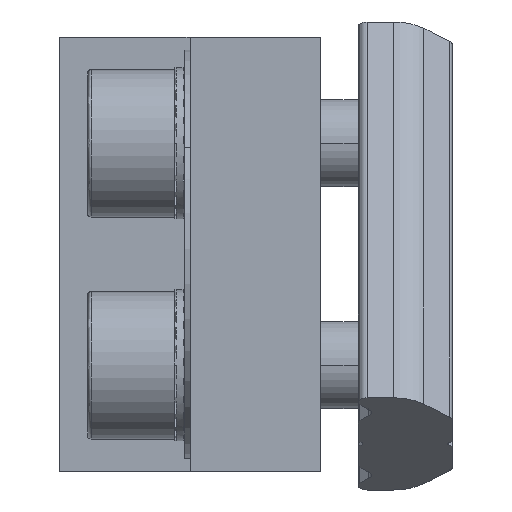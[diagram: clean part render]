
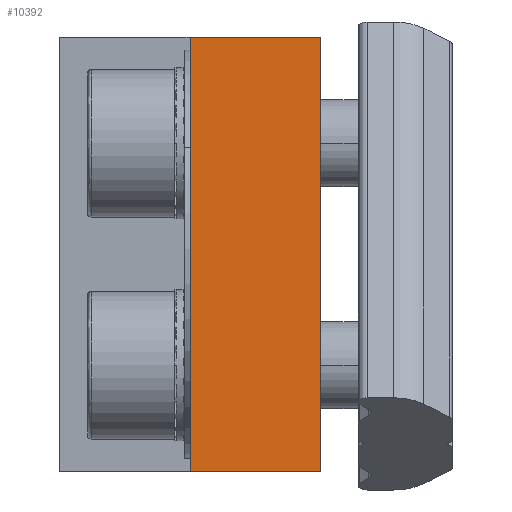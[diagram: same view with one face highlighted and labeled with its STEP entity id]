
A CAD part, front view. The second image highlights one B-rep face of the part: STEP entity #10392.
In plain terms, the highlighted planar face has unit normal (0, -1, 0).
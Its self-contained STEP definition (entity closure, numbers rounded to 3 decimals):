
#10 = CARTESIAN_POINT ( 'NONE',  ( 26.624, -3.951, 12.5 ) ) ;
#322 = DIRECTION ( 'NONE',  ( -1., 0., 0. ) ) ;
#743 = EDGE_CURVE ( 'NONE', #5175, #8166, #8950, .T. ) ;
#781 = EDGE_LOOP ( 'NONE', ( #16447, #2942, #9167, #12747 ) ) ;
#1919 = PLANE ( 'NONE',  #16482 ) ;
#2942 = ORIENTED_EDGE ( 'NONE', *, *, #7098, .T. ) ;
#3787 = DIRECTION ( 'NONE',  ( 0., -1., 0. ) ) ;
#3791 = DIRECTION ( 'NONE',  ( 0., 0., -1. ) ) ;
#4607 = EDGE_CURVE ( 'NONE', #15105, #21935, #5668, .T. ) ;
#5175 = VERTEX_POINT ( 'NONE', #20303 ) ;
#5668 = LINE ( 'NONE', #6031, #9645 ) ;
#6031 = CARTESIAN_POINT ( 'NONE',  ( 26.624, -3.951, 0. ) ) ;
#6185 = LINE ( 'NONE', #7695, #13130 ) ;
#7098 = EDGE_CURVE ( 'NONE', #8166, #15105, #22414, .T. ) ;
#7695 = CARTESIAN_POINT ( 'NONE',  ( 26.624, -3.951, -12.5 ) ) ;
#7902 = CARTESIAN_POINT ( 'NONE',  ( 26.624, -3.951, -12.5 ) ) ;
#8166 = VERTEX_POINT ( 'NONE', #18724 ) ;
#8950 = LINE ( 'NONE', #11322, #11959 ) ;
#9167 = ORIENTED_EDGE ( 'NONE', *, *, #4607, .T. ) ;
#9645 = VECTOR ( 'NONE', #3791, 1000. ) ;
#10392 = ADVANCED_FACE ( 'NONE', ( #24795 ), #1919, .T. ) ;
#10594 = VECTOR ( 'NONE', #16830, 1000. ) ;
#11322 = CARTESIAN_POINT ( 'NONE',  ( 34.124, -3.951, 0. ) ) ;
#11959 = VECTOR ( 'NONE', #22464, 1000. ) ;
#12747 = ORIENTED_EDGE ( 'NONE', *, *, #24764, .F. ) ;
#13130 = VECTOR ( 'NONE', #322, 1000. ) ;
#15105 = VERTEX_POINT ( 'NONE', #10 ) ;
#15348 = CARTESIAN_POINT ( 'NONE',  ( 26.624, -3.951, -12.5 ) ) ;
#16447 = ORIENTED_EDGE ( 'NONE', *, *, #743, .T. ) ;
#16482 = AXIS2_PLACEMENT_3D ( 'NONE', #15348, #3787, #23084 ) ;
#16830 = DIRECTION ( 'NONE',  ( -1., 0., 0. ) ) ;
#18724 = CARTESIAN_POINT ( 'NONE',  ( 34.124, -3.951, 12.5 ) ) ;
#20303 = CARTESIAN_POINT ( 'NONE',  ( 34.124, -3.951, -12.5 ) ) ;
#21935 = VERTEX_POINT ( 'NONE', #7902 ) ;
#22414 = LINE ( 'NONE', #24388, #10594 ) ;
#22464 = DIRECTION ( 'NONE',  ( 0., 0., 1. ) ) ;
#23084 = DIRECTION ( 'NONE',  ( 1., 0., 0. ) ) ;
#24388 = CARTESIAN_POINT ( 'NONE',  ( 30.374, -3.951, 12.5 ) ) ;
#24764 = EDGE_CURVE ( 'NONE', #5175, #21935, #6185, .T. ) ;
#24795 = FACE_OUTER_BOUND ( 'NONE', #781, .T. ) ;
